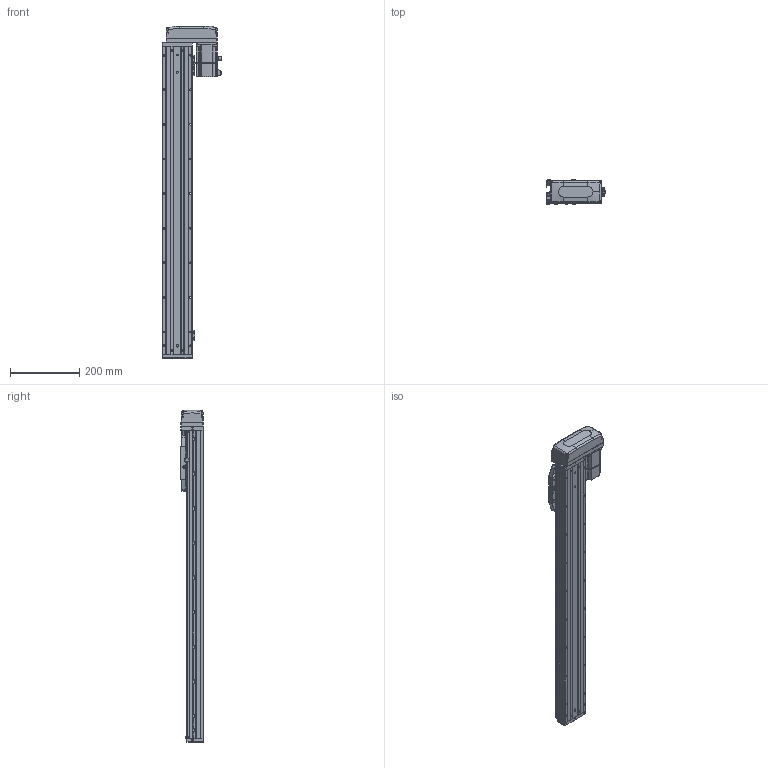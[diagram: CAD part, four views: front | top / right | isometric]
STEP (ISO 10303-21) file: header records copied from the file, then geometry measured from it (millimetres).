
FILE_DESCRIPTION (( 'STEP AP203' ), '1' );
FILE_NAME ('CTHA86-700-BL-M20-C4L.step', '2022-04-26T00:52:13', ( '微软用户' ), ( '微软中国' ), 'SwSTEP 2.0', 'SolidWorks 2020', '' );
FILE_SCHEMA (( 'CONFIG_CONTROL_DESIGN' ));
Length unit declared in the file: millimetre
Products named in the file (21): CTHA60-017; CTHA60-016; CTHA86-033; CTHA60-021; _X2_4E0983F1_X0_200W_1; CTHA86-700-BL-M20-C4L; KTHA86-001_890; GBT77-2000 M3×3; CTHA86-002; KTHA86-004; GBT 70.1-M3×20; CTHA86-031; KTHA86-005; GBT70.1 M5℅16; CTHA86-030; GB¨uT 70.2-M3¡Á5_M3¡Á6; GBT 70.1-M3×16; GBT 70.3-M3℅6; EE_SX911P_R; GBT 70.1-M3℅6; CTHA86-015-1_CTHA86-015-2
Assembly tree (66 placements, depth 2):
  CTHA86-700-BL-M20-C4L
    KTHA86-001_890
    KTHA86-004
    KTHA86-005
    GB¨uT 70.2-M3¡Á5_M3¡Á6  x10
    EE_SX911P_R  x3
    CTHA60-017  x3
    CTHA60-021  x2
    GBT77-2000 M3×3  x6
    GBT 70.1-M3×20
    GBT70.1 M5℅16  x14
    GBT 70.1-M3×16  x5
    GBT 70.1-M3℅6  x6
    CTHA60-016  x2
    _X2_4E0983F1_X0_200W_1
    CTHA86-002
    CTHA86-031
    CTHA86-030  x2
    GBT 70.3-M3℅6  x4
    CTHA86-015-1_CTHA86-015-2
    CTHA86-033
Bounding box: 172.7 x 68 x 959 mm (x, y, z)
Volume: 3731810.8 mm3; surface area: 643567.1 mm2
Topology: 68 solids, 68 shells, 2806 faces, 6708 edges, 4132 vertices
Faces by surface type: plane 1475, cylinder 729, cone 371, torus 132, bspline 75, sphere 24
Entity records: 49727 total; most frequent: CARTESIAN_POINT 9619, DIRECTION 7739, ORIENTED_EDGE 7516, EDGE_CURVE 3758, AXIS2_PLACEMENT_3D 2636, VECTOR 2467, LINE 2467, VERTEX_POINT 2364
